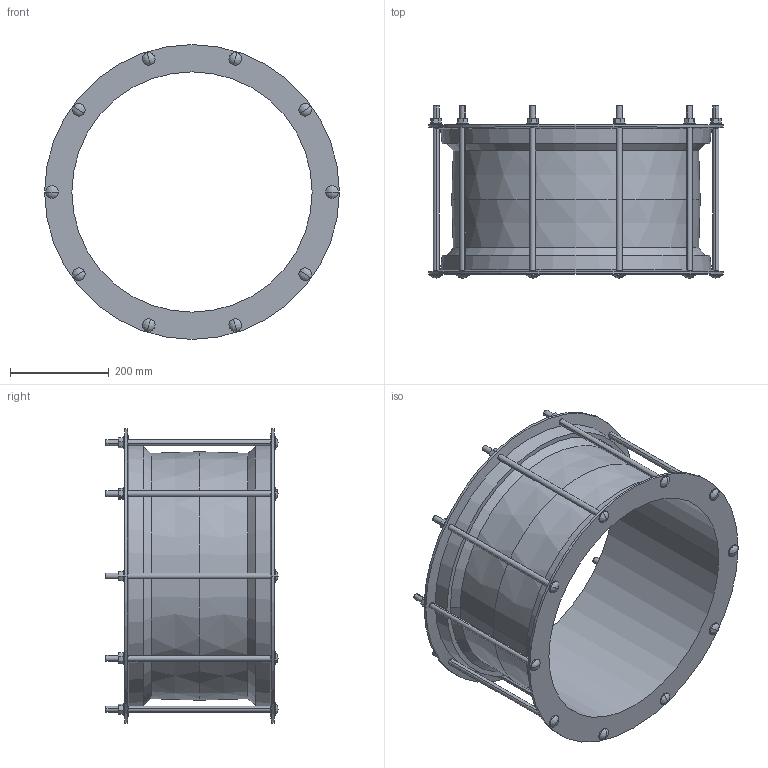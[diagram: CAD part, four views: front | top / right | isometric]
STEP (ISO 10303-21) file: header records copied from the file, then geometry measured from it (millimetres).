
FILE_DESCRIPTION((''),'2;1');
FILE_NAME('MAXIFIT_467_484','2018-12-18T',('mfairey'),('Glynwed Pipe Systems'),'CREO PARAMETRIC BY PTC INC, 2016130','CREO PARAMETRIC BY PTC INC, 2016130','');
FILE_SCHEMA(('CONFIG_CONTROL_DESIGN'));
Length unit declared in the file: millimetre
Products named in the file (1): MAXIFIT_467_484
Bounding box: 596 x 348 x 596 mm (x, y, z)
Volume: 7185632.5 mm3; surface area: 1386582.7 mm2
Topology: 1 solids, 1 shells, 216 faces, 524 edges, 328 vertices
Faces by surface type: plane 94, cylinder 86, bspline 20, cone 16
Entity records: 7706 total; most frequent: CARTESIAN_POINT 2682, DIRECTION 1018, ORIENTED_EDGE 1008, EDGE_CURVE 504, AXIS2_PLACEMENT_3D 366, VERTEX_POINT 328, VECTOR 286, LINE 286
